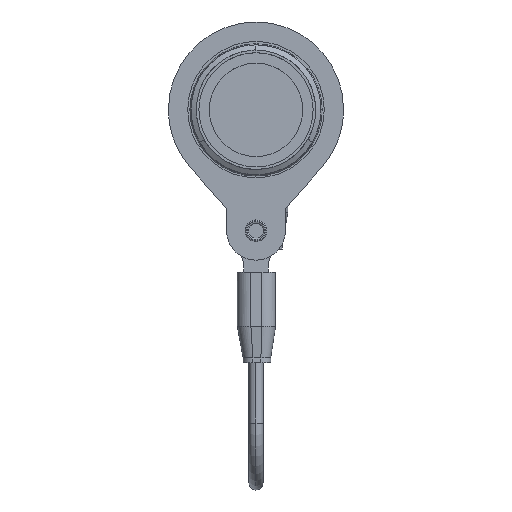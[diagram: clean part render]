
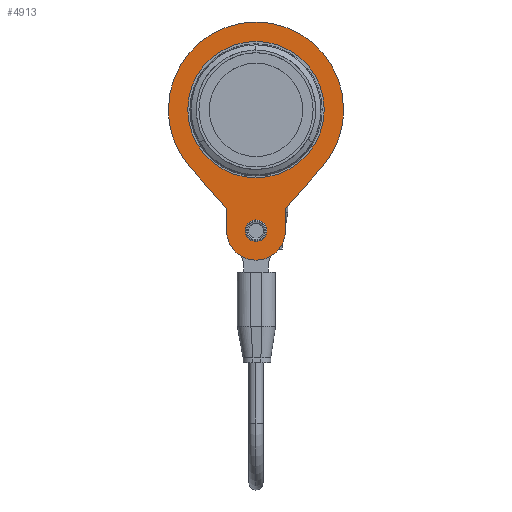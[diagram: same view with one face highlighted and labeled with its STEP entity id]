
A CAD part, top view. The second image highlights one B-rep face of the part: STEP entity #4913.
In plain terms, the highlighted planar face has unit normal (0, 0, 1) as drawn and (0, 0, -1) by its records, which use the part's own axes.
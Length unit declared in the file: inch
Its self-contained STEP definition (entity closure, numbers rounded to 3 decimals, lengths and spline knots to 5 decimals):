
#291 = ORIENTED_EDGE ( 'NONE', *, *, #13047, .F. ) ;
#474 = CARTESIAN_POINT ( 'NONE',  ( 0., 0., -0.01378 ) ) ;
#2078 = VERTEX_POINT ( 'NONE', #40567 ) ;
#2247 = EDGE_CURVE ( 'NONE', #7409, #2078, #32141, .T. ) ;
#2551 = CARTESIAN_POINT ( 'NONE',  ( 0., 0., -0.01378 ) ) ;
#2619 = DIRECTION ( 'NONE',  ( 0., 0., 1. ) ) ;
#2895 = CIRCLE ( 'NONE', #29968, 0.06102 ) ;
#2922 = DIRECTION ( 'NONE',  ( 0., 0., 1. ) ) ;
#3259 = AXIS2_PLACEMENT_3D ( 'NONE', #474, #17671, #20876 ) ;
#3829 = VERTEX_POINT ( 'NONE', #32398 ) ;
#4555 = LINE ( 'NONE', #18527, #10573 ) ;
#4824 = EDGE_CURVE ( 'NONE', #27625, #3829, #6788, .T. ) ;
#4913 = ADVANCED_FACE ( 'NONE', ( #23965, #30409, #37496 ), #27425, .F. ) ;
#5463 = EDGE_CURVE ( 'NONE', #29681, #19402, #2895, .T. ) ;
#6050 = VERTEX_POINT ( 'NONE', #26799 ) ;
#6515 = ORIENTED_EDGE ( 'NONE', *, *, #2247, .F. ) ;
#6788 = LINE ( 'NONE', #45035, #23433 ) ;
#7191 = EDGE_LOOP ( 'NONE', ( #17927, #7905 ) ) ;
#7409 = VERTEX_POINT ( 'NONE', #28566 ) ;
#7905 = ORIENTED_EDGE ( 'NONE', *, *, #39962, .T. ) ;
#8556 = DIRECTION ( 'NONE',  ( 0., 0., 1. ) ) ;
#8938 = ORIENTED_EDGE ( 'NONE', *, *, #22916, .F. ) ;
#9293 = VERTEX_POINT ( 'NONE', #26979 ) ;
#9609 = VERTEX_POINT ( 'NONE', #32648 ) ;
#10321 = AXIS2_PLACEMENT_3D ( 'NONE', #15202, #8556, #36513 ) ;
#10516 = LINE ( 'NONE', #17168, #39907 ) ;
#10573 = VECTOR ( 'NONE', #32501, 39.37008 ) ;
#10595 = CIRCLE ( 'NONE', #39869, 0.45669 ) ;
#11177 = VERTEX_POINT ( 'NONE', #42434 ) ;
#11239 = DIRECTION ( 'NONE',  ( 0., 0., 1. ) ) ;
#11291 = ORIENTED_EDGE ( 'NONE', *, *, #19643, .F. ) ;
#11647 = VERTEX_POINT ( 'NONE', #38945 ) ;
#11774 = DIRECTION ( 'NONE',  ( 0., 0., 1. ) ) ;
#12127 = AXIS2_PLACEMENT_3D ( 'NONE', #34032, #2619, #44107 ) ;
#12502 = CIRCLE ( 'NONE', #10321, 0.06102 ) ;
#12752 = VECTOR ( 'NONE', #13232, 39.37008 ) ;
#12955 = VERTEX_POINT ( 'NONE', #24005 ) ;
#13047 = EDGE_CURVE ( 'NONE', #9609, #7409, #18798, .T. ) ;
#13232 = DIRECTION ( 'NONE',  ( 0.664, 0.747, 0. ) ) ;
#14147 = EDGE_LOOP ( 'NONE', ( #8938, #14845, #22618, #6515, #291, #16700, #11291, #29017 ) ) ;
#14845 = ORIENTED_EDGE ( 'NONE', *, *, #22325, .F. ) ;
#15202 = CARTESIAN_POINT ( 'NONE',  ( 0., -0.81102, -0.01378 ) ) ;
#15386 = AXIS2_PLACEMENT_3D ( 'NONE', #44367, #20066, #34067 ) ;
#15421 = CARTESIAN_POINT ( 'NONE',  ( 0., 0., -0.01378 ) ) ;
#16671 = LINE ( 'NONE', #44621, #12752 ) ;
#16700 = ORIENTED_EDGE ( 'NONE', *, *, #39972, .F. ) ;
#17168 = CARTESIAN_POINT ( 'NONE',  ( -0.19685, -0.66142, -0.01378 ) ) ;
#17630 = DIRECTION ( 'NONE',  ( 1., 0., 0. ) ) ;
#17671 = DIRECTION ( 'NONE',  ( 0., 0., 1. ) ) ;
#17927 = ORIENTED_EDGE ( 'NONE', *, *, #31261, .T. ) ;
#18527 = CARTESIAN_POINT ( 'NONE',  ( -0.19685, -0.66142, -0.01378 ) ) ;
#18798 = CIRCLE ( 'NONE', #21009, 0.58661 ) ;
#19060 = CARTESIAN_POINT ( 'NONE',  ( 0., -0.81102, -0.01378 ) ) ;
#19061 = ORIENTED_EDGE ( 'NONE', *, *, #31258, .T. ) ;
#19402 = VERTEX_POINT ( 'NONE', #28242 ) ;
#19643 = EDGE_CURVE ( 'NONE', #3829, #9293, #16671, .T. ) ;
#20066 = DIRECTION ( 'NONE',  ( 0., 0., 1. ) ) ;
#20809 = EDGE_CURVE ( 'NONE', #2078, #11177, #4555, .T. ) ;
#20876 = DIRECTION ( 'NONE',  ( 1., 0., 0. ) ) ;
#21009 = AXIS2_PLACEMENT_3D ( 'NONE', #27006, #2922, #30680 ) ;
#22325 = EDGE_CURVE ( 'NONE', #11177, #12955, #10516, .T. ) ;
#22618 = ORIENTED_EDGE ( 'NONE', *, *, #20809, .F. ) ;
#22916 = EDGE_CURVE ( 'NONE', #12955, #27625, #31888, .T. ) ;
#23433 = VECTOR ( 'NONE', #26968, 39.37008 ) ;
#23965 = FACE_BOUND ( 'NONE', #28480, .T. ) ;
#24005 = CARTESIAN_POINT ( 'NONE',  ( -0.19685, -0.81102, -0.01378 ) ) ;
#24057 = CARTESIAN_POINT ( 'NONE',  ( 0., 0., -0.01378 ) ) ;
#24723 = DIRECTION ( 'NONE',  ( 0., 0., 1. ) ) ;
#26799 = CARTESIAN_POINT ( 'NONE',  ( 0.45669, 0., -0.01378 ) ) ;
#26968 = DIRECTION ( 'NONE',  ( 0., 1., 0. ) ) ;
#26979 = CARTESIAN_POINT ( 'NONE',  ( 0.43837, -0.3898, -0.01378 ) ) ;
#27006 = CARTESIAN_POINT ( 'NONE',  ( 0., 0., -0.01378 ) ) ;
#27018 = AXIS2_PLACEMENT_3D ( 'NONE', #24057, #24723, #17630 ) ;
#27425 = PLANE ( 'NONE',  #15386 ) ;
#27625 = VERTEX_POINT ( 'NONE', #36433 ) ;
#27923 = CIRCLE ( 'NONE', #31578, 0.45669 ) ;
#27952 = DIRECTION ( 'NONE',  ( 0., -1., 0. ) ) ;
#28228 = DIRECTION ( 'NONE',  ( 1., 0., 0. ) ) ;
#28242 = CARTESIAN_POINT ( 'NONE',  ( 0.06102, -0.81102, -0.01378 ) ) ;
#28480 = EDGE_LOOP ( 'NONE', ( #19061, #41064 ) ) ;
#28566 = CARTESIAN_POINT ( 'NONE',  ( -0.58661, 0., -0.01378 ) ) ;
#29017 = ORIENTED_EDGE ( 'NONE', *, *, #4824, .F. ) ;
#29648 = CIRCLE ( 'NONE', #3259, 0.58661 ) ;
#29681 = VERTEX_POINT ( 'NONE', #44608 ) ;
#29968 = AXIS2_PLACEMENT_3D ( 'NONE', #19060, #39918, #33041 ) ;
#30409 = FACE_BOUND ( 'NONE', #7191, .T. ) ;
#30680 = DIRECTION ( 'NONE',  ( 1., 0., 0. ) ) ;
#31258 = EDGE_CURVE ( 'NONE', #19402, #29681, #12502, .T. ) ;
#31261 = EDGE_CURVE ( 'NONE', #6050, #11647, #27923, .T. ) ;
#31578 = AXIS2_PLACEMENT_3D ( 'NONE', #15421, #11774, #42942 ) ;
#31888 = CIRCLE ( 'NONE', #12127, 0.19685 ) ;
#32141 = CIRCLE ( 'NONE', #27018, 0.58661 ) ;
#32398 = CARTESIAN_POINT ( 'NONE',  ( 0.19685, -0.66142, -0.01378 ) ) ;
#32501 = DIRECTION ( 'NONE',  ( 0.664, -0.747, 0. ) ) ;
#32648 = CARTESIAN_POINT ( 'NONE',  ( 0.58661, 0., -0.01378 ) ) ;
#33041 = DIRECTION ( 'NONE',  ( 1., 0., 0. ) ) ;
#34032 = CARTESIAN_POINT ( 'NONE',  ( 0., -0.81102, -0.01378 ) ) ;
#34067 = DIRECTION ( 'NONE',  ( 1., 0., 0. ) ) ;
#36433 = CARTESIAN_POINT ( 'NONE',  ( 0.19685, -0.81102, -0.01378 ) ) ;
#36513 = DIRECTION ( 'NONE',  ( 1., 0., 0. ) ) ;
#37496 = FACE_OUTER_BOUND ( 'NONE', #14147, .T. ) ;
#38945 = CARTESIAN_POINT ( 'NONE',  ( -0.45669, 0., -0.01378 ) ) ;
#39869 = AXIS2_PLACEMENT_3D ( 'NONE', #2551, #11239, #28228 ) ;
#39907 = VECTOR ( 'NONE', #27952, 39.37008 ) ;
#39918 = DIRECTION ( 'NONE',  ( 0., 0., 1. ) ) ;
#39962 = EDGE_CURVE ( 'NONE', #11647, #6050, #10595, .T. ) ;
#39972 = EDGE_CURVE ( 'NONE', #9293, #9609, #29648, .T. ) ;
#40567 = CARTESIAN_POINT ( 'NONE',  ( -0.43837, -0.3898, -0.01378 ) ) ;
#41064 = ORIENTED_EDGE ( 'NONE', *, *, #5463, .T. ) ;
#42434 = CARTESIAN_POINT ( 'NONE',  ( -0.19685, -0.66142, -0.01378 ) ) ;
#42942 = DIRECTION ( 'NONE',  ( 1., 0., 0. ) ) ;
#44107 = DIRECTION ( 'NONE',  ( 1., 0., 0. ) ) ;
#44367 = CARTESIAN_POINT ( 'NONE',  ( 0., -0.81102, -0.01378 ) ) ;
#44608 = CARTESIAN_POINT ( 'NONE',  ( -0.06102, -0.81102, -0.01378 ) ) ;
#44621 = CARTESIAN_POINT ( 'NONE',  ( 0.19685, -0.66142, -0.01378 ) ) ;
#45035 = CARTESIAN_POINT ( 'NONE',  ( 0.19685, -0.66142, -0.01378 ) ) ;
